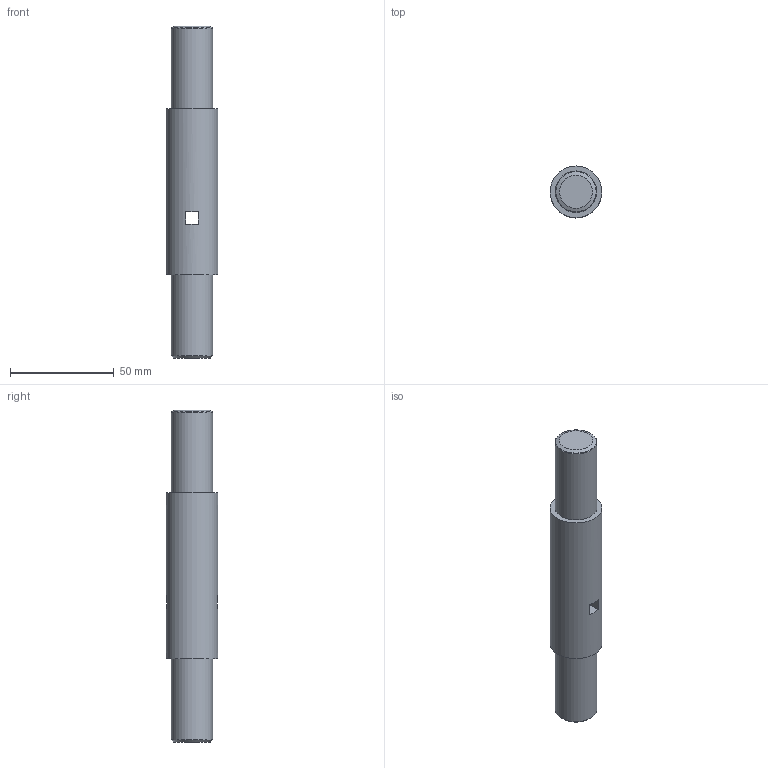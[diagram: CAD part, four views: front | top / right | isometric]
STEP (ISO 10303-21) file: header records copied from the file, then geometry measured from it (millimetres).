
FILE_DESCRIPTION(('Open CASCADE Model'),'2;1');
FILE_NAME('Open CASCADE Shape Model','2026-10-30T15:17:50',('Author'),( 'Open CASCADE'),'Open CASCADE STEP processor 7.9','Open CASCADE 7.9' ,'Unknown');
FILE_SCHEMA(('AUTOMOTIVE_DESIGN { 1 0 10303 214 1 1 1 1 }'));
Length unit declared in the file: millimetre
Products named in the file (2): 11aab8b2-d475-11f1-a4b6-a1907b00df12; stepped_shaft
Assembly tree (1 placements, depth 2):
  11aab8b2-d475-11f1-a4b6-a1907b00df12
    stepped_shaft
Bounding box: 25 x 25 x 160 mm (x, y, z)
Volume: 63430.9 mm3; surface area: 12721.5 mm2
Topology: 1 solids, 1 shells, 14 faces, 27 edges, 17 vertices
Faces by surface type: plane 8, cone 3, cylinder 3
Full cylindrical faces by diameter (mm): 20 x2, 25 x1
Entity records: 750 total; most frequent: CARTESIAN_POINT 152, DIRECTION 108, ORIENTED_EDGE 54, PCURVE 54, DEFINITIONAL_REPRESENTATION 54, LINE 44, VECTOR 44, AXIS2_PLACEMENT_3D 29
